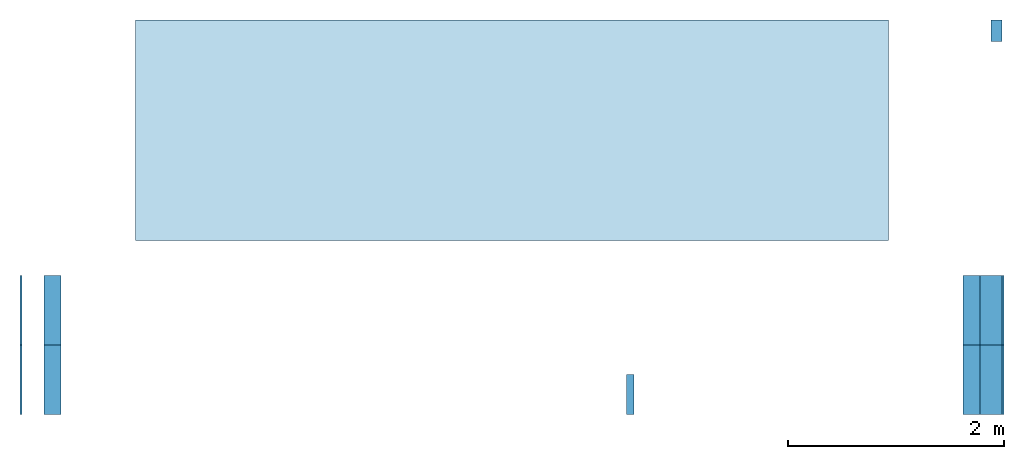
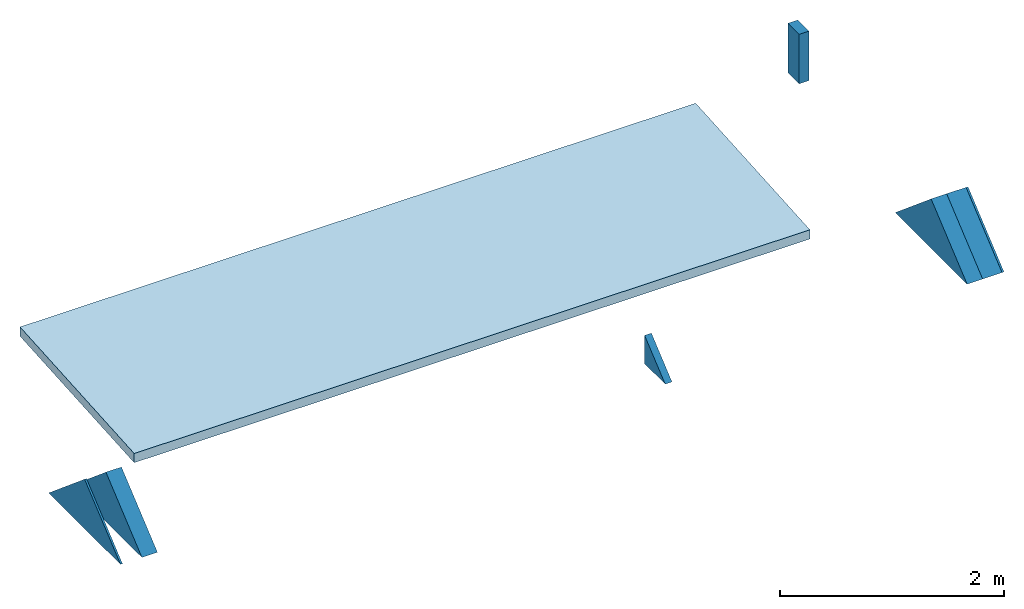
# One storey: 6 walls, 1 slab, 1 element without a shape of its own.
"""IFC2X3 building model written with IfcOpenShell, lengths in centimetres."""

from ifc_helpers import new_model, entity, si_unit, converted_unit, derived_unit, direction, frame, frame_2d, origin, place, context, subcontext, project, spatial, polyline, rectangle, outline, extrude, clip, halfspace, bounded_halfspace, material, layer, layer_set, layer_usage, type_object, element, aggregate, save


model = new_model("IFC2X3")

# Units and contexts
model_context = context("Model", 3, precision=0.001, world=origin(), true_north=direction((6.12303176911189e-17, 1.0)))
body_context = subcontext(model_context, "Body", "Model", "MODEL_VIEW")
ifc_project = project(units=[si_unit("LENGTHUNIT", "METRE", prefix="CENTI"), si_unit("AREAUNIT", "SQUARE_METRE"), si_unit("VOLUMEUNIT", "CUBIC_METRE"), converted_unit("PLANEANGLEUNIT", "DEGREE", entity("IfcRatioMeasure", 0.0174532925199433), si_unit("PLANEANGLEUNIT", "RADIAN"), dimensions=[0, 0, 0, 0, 0, 0, 0]), si_unit("MASSUNIT", "GRAM", prefix="KILO"), derived_unit("MASSDENSITYUNIT", [(si_unit("MASSUNIT", "GRAM", prefix="KILO"), 1), (si_unit("LENGTHUNIT", "METRE"), -3)]), derived_unit("MOMENTOFINERTIAUNIT", [(si_unit("LENGTHUNIT", "METRE"), 4)]), si_unit("TIMEUNIT", "SECOND"), si_unit("FREQUENCYUNIT", "HERTZ"), si_unit("THERMODYNAMICTEMPERATUREUNIT", "DEGREE_CELSIUS"), derived_unit("THERMALTRANSMITTANCEUNIT", [(si_unit("MASSUNIT", "GRAM", prefix="KILO"), 1), (si_unit("THERMODYNAMICTEMPERATUREUNIT", "KELVIN"), -1), (si_unit("TIMEUNIT", "SECOND"), -3)]), derived_unit("VOLUMETRICFLOWRATEUNIT", [(si_unit("LENGTHUNIT", "METRE"), 3), (si_unit("TIMEUNIT", "SECOND"), -1)]), si_unit("ELECTRICCURRENTUNIT", "AMPERE"), si_unit("ELECTRICVOLTAGEUNIT", "VOLT"), si_unit("POWERUNIT", "WATT"), si_unit("FORCEUNIT", "NEWTON", prefix="KILO"), si_unit("ILLUMINANCEUNIT", "LUX"), si_unit("LUMINOUSFLUXUNIT", "LUMEN"), si_unit("LUMINOUSINTENSITYUNIT", "CANDELA"), derived_unit("USERDEFINED", [(si_unit("MASSUNIT", "GRAM", prefix="KILO"), -1), (si_unit("LENGTHUNIT", "METRE"), -2), (si_unit("TIMEUNIT", "SECOND"), 3), (si_unit("LUMINOUSFLUXUNIT", "LUMEN"), 1)]), derived_unit("LINEARVELOCITYUNIT", [(si_unit("LENGTHUNIT", "METRE"), 1), (si_unit("TIMEUNIT", "SECOND"), -1)]), si_unit("PRESSUREUNIT", "PASCAL"), derived_unit("USERDEFINED", [(si_unit("LENGTHUNIT", "METRE"), -2), (si_unit("MASSUNIT", "GRAM", prefix="KILO"), 1), (si_unit("TIMEUNIT", "SECOND"), -2)]), derived_unit("LINEARFORCEUNIT", [(si_unit("MASSUNIT", "GRAM", prefix="KILO"), 1), (si_unit("LENGTHUNIT", "METRE"), 1), (si_unit("TIMEUNIT", "SECOND"), -2), (si_unit("LENGTHUNIT", "METRE"), -1)]), derived_unit("PLANARFORCEUNIT", [(si_unit("MASSUNIT", "GRAM", prefix="KILO"), 1), (si_unit("LENGTHUNIT", "METRE"), 1), (si_unit("TIMEUNIT", "SECOND"), -2), (si_unit("LENGTHUNIT", "METRE"), -2)])], contexts=[model_context])

# Site, building, storey
site_placement = place(None, origin())
site = spatial("IfcSite", under=ifc_project, at=site_placement, Name="Surface", CompositionType="ELEMENT")
building_placement = place(site_placement, origin())
building = spatial("IfcBuilding", under=site, at=building_placement, CompositionType="ELEMENT")
storey_placement = place(building_placement, frame((0.0, 0.0, 567.0)))
storey = spatial("IfcBuildingStorey", under=building, at=storey_placement, Name="5.67_Arase lucarne", CompositionType="ELEMENT", Elevation=567.0)

# Roof, slab
roof_placement = place(storey_placement, frame((-1683.17726031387, 518.245125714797, -24.2741602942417)))
roof = element("IfcRoof", 1, at=roof_placement, inside=storey, Name="Toit de base:Toiture", ObjectType="Toit de base:Toiture", ShapeType="NOTDEFINED")
ifc_material_1 = material(Name="Ardoise")
ifc_layer_1 = layer(ifc_material_1, 10.0)
ifc_layer_set_1 = layer_set([ifc_layer_1], Name="Toit de base:Toiture")
slab_type = type_object("IfcSlabType", Name="Toit de base:Toiture", PredefinedType="ROOF")
slab_placement = place(roof_placement, origin())
slab = element("IfcSlab", 2, at=slab_placement, type_object=slab_type, material=ifc_layer_set_1, Name="Toit de base:Toiture", ObjectType="Toit de base:Toiture", PredefinedType="ROOF", context=body_context, shape_type="SweptSolid", body=[
    extrude(rectangle(XDim=696.000000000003, YDim=204.278406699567, at=frame_2d((-1.13686837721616e-13, 0.0), x_axis=(1.0, 0.0))), frame((348.0, 101.890397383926, 7.12487065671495), z_axis=(0.0, -0.0697564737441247, 0.997564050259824), x_axis=(1.0, 0.0, 0.0)), (0.0, 0.0697564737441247, 0.997564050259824), 10.0244189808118),
])
aggregate(roof, [slab])

# Walls
ifc_material_2 = material(Name="Maçonnerie - Béton")
ifc_layer_2 = layer(ifc_material_2, 20.0)
ifc_layer_set_2 = layer_set([ifc_layer_2], Name="Mur de base:Mur 20")
ifc_layer_usage_1 = layer_usage(ifc_layer_set_2, "AXIS2", "NEGATIVE", 10.0)
wall_type_1 = type_object("IfcWallType", Name="Mur de base:Mur 20", PredefinedType="STANDARD", material=ifc_layer_set_2)
wall_1_placement = place(storey_placement, frame((-892.177260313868, 721.992317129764, 0.0), z_axis=(0.0, 0.0, 1.0), x_axis=(0.0, -1.0, 0.0)))
element("IfcWallStandardCase", 3, at=wall_1_placement, inside=storey, type_object=wall_type_1, material=ifc_layer_usage_1, Name="Mur de base:Mur 20", ObjectType="Mur de base:Mur 20", context=body_context, shape_type="Clipping", body=[
    clip(clip(clip(extrude(outline(polyline([(581.0, -10.0), (581.0, 10.0), (0.0, 10.0), (0.0, 0.0), (20.0, 0.0), (20.0, -10.0), (581.0, -10.0)])), origin(), (0.0, 0.0, 1.0), 53.8814317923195), bounded_halfspace(frame((20.0, -10.0, -181.486014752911), z_axis=(-0.642787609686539, 0.0, 0.766044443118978), x_axis=(0.0, -1.0, 0.0)), False, frame((20.0, -10.0, -181.486014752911)), polyline([(0.0, 0.0), (280.500000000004, 0.0), (280.500000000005, 20.0), (0.0, 20.0), (0.0, 0.0)]))), bounded_halfspace(frame((300.499999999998, -10.0, 53.8814317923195), z_axis=(0.642787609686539, 0.0, 0.766044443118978), x_axis=(0.0, 1.0, 0.0)), False, frame((300.499999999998, -10.0, 53.8814317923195)), polyline([(0.0, 0.0), (280.499999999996, 0.0), (280.499999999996, 20.0), (0.0, 20.0), (0.0, 0.0)]))), halfspace(frame((0.0, 0.0, -310.0)), True)),
])
ifc_material_3 = material(Name="Maçonnerie - Enduit")
ifc_layer_3 = layer(ifc_material_3, 2.0)
ifc_layer_set_3 = layer_set([ifc_layer_3], Name="Mur de base:Enduit 2")
ifc_layer_usage_2 = layer_usage(ifc_layer_set_3, "AXIS2", "NEGATIVE", 1.0)
wall_type_2 = type_object("IfcWallType", Name="Mur de base:Enduit 2", PredefinedType="STANDARD", material=ifc_layer_set_3)
wall_2_placement = place(storey_placement, frame((-881.177260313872, 711.992317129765, 0.0), z_axis=(0.0, 0.0, 1.0), x_axis=(0.0, -1.0, 0.0)))
element("IfcWallStandardCase", 4, at=wall_2_placement, inside=storey, type_object=wall_type_2, material=ifc_layer_usage_2, Name="Mur de base:Enduit 2", ObjectType="Mur de base:Enduit 2", context=body_context, shape_type="Clipping", body=[
    clip(clip(clip(extrude(rectangle(XDim=592.999999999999, YDim=1.99999999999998, at=frame_2d((296.5, -7.71605002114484e-15), x_axis=(-1.0, 0.0))), origin(), (0.0, 0.0, 1.0), 53.8814317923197), bounded_halfspace(frame((0.0, -1.0, -189.877011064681), z_axis=(-0.642787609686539, 0.0, 0.766044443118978), x_axis=(0.0, -1.0, 0.0)), False, frame((0.0, -1.0, -189.877011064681)), polyline([(0.0, 0.0), (290.5, 0.0), (290.5, 2.0), (0.0, 2.0), (0.0, 0.0)]))), bounded_halfspace(frame((290.5, -1.0, 53.8814317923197), z_axis=(0.642787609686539, 0.0, 0.766044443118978), x_axis=(0.0, 1.0, 0.0)), False, frame((290.5, -1.0, 53.8814317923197)), polyline([(0.0, 0.0), (300.499999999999, 0.0), (302.499999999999, 0.0), (302.499999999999, 2.0), (0.0, 2.0), (0.0, 0.0)]))), halfspace(frame((0.0, 0.0, -310.0)), True)),
])
ifc_layer_usage_3 = layer_usage(ifc_layer_set_3, "AXIS2", "POSITIVE", -1.0)
wall_3_placement = place(storey_placement, frame((-1789.17726031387, 721.992317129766, 0.0), z_axis=(0.0, 0.0, 1.0), x_axis=(0.0, -1.0, 0.0)))
element("IfcWallStandardCase", 5, at=wall_3_placement, inside=storey, type_object=wall_type_2, material=ifc_layer_usage_3, Name="Mur de base:Enduit 2", ObjectType="Mur de base:Enduit 2", context=body_context, shape_type="Clipping", body=[
    clip(clip(clip(extrude(rectangle(XDim=601.0, YDim=1.99999999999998, at=frame_2d((300.5, -3.38618022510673e-15), x_axis=(-1.0, 0.0))), origin(), (0.0, 0.0, 1.0), 53.8814317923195), bounded_halfspace(frame((0.0, -1.0, -198.268007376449), z_axis=(-0.642787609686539, 0.0, 0.766044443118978), x_axis=(0.0, -1.0, 0.0)), False, frame((0.0, -1.0, -198.268007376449)), polyline([(0.0, 0.0), (300.499999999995, 0.0), (300.499999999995, 2.0), (0.0, 2.0), (0.0, 0.0)]))), bounded_halfspace(frame((300.499999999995, -1.0, 53.8814317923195), z_axis=(0.642787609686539, 0.0, 0.766044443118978), x_axis=(0.0, 1.0, 0.0)), False, frame((300.499999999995, -1.0, 53.8814317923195)), polyline([(0.0, 0.0), (300.500000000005, 0.0), (300.500000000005, 2.0), (0.0, 2.0), (0.0, 0.0)]))), halfspace(frame((0.0, 0.0, -285.0)), True)),
])
ifc_material_4 = material(Name="Isolant rigide")
ifc_layer_4 = layer(ifc_material_4, 16.0)
ifc_layer_set_4 = layer_set([ifc_layer_4], Name="Mur de base:Doublage 16")
ifc_layer_usage_4 = layer_usage(ifc_layer_set_4, "AXIS2", "POSITIVE", -8.0)
wall_type_3 = type_object("IfcWallType", Name="Mur de base:Doublage 16", PredefinedType="STANDARD", material=ifc_layer_set_4)
wall_4_placement = place(storey_placement, frame((-910.177260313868, 701.99231712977, 0.0), z_axis=(0.0, 0.0, 1.0), x_axis=(0.0, -1.0, 0.0)))
element("IfcWallStandardCase", 6, at=wall_4_placement, inside=storey, type_object=wall_type_3, material=ifc_layer_usage_4, Name="Mur de base:Doublage 16", ObjectType="Mur de base:Doublage 16", context=body_context, shape_type="Clipping", body=[
    clip(clip(clip(extrude(rectangle(XDim=561.0, YDim=16.0, at=frame_2d((280.5, 0.0), x_axis=(-1.0, 0.0))), origin(), (0.0, 0.0, 1.0), 53.8814317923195), bounded_halfspace(frame((0.0, -8.0, -181.486014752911), z_axis=(-0.642787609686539, 0.0, 0.766044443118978), x_axis=(0.0, -1.0, 0.0)), False, frame((0.0, -8.0, -181.486014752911)), polyline([(0.0, 0.0), (16.0, 0.0), (280.500000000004, 0.0), (280.500000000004, 16.0), (0.0, 16.0), (0.0, 0.0)]))), bounded_halfspace(frame((280.500000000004, -8.0, 53.8814317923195), z_axis=(0.642787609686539, 0.0, 0.766044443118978), x_axis=(0.0, 1.0, 0.0)), False, frame((280.500000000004, -8.0, 53.8814317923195)), polyline([(0.0, 0.0), (280.499999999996, 0.0), (280.499999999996, 16.0), (0.0, 16.0), (0.0, 0.0)]))), halfspace(frame((0.0, 0.0, -304.0)), True)),
])
ifc_layer_usage_5 = layer_usage(ifc_layer_set_4, "AXIS2", "POSITIVE", -8.0)
wall_5_placement = place(storey_placement, frame((-1760.17726031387, 140.992317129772, 0.0), z_axis=(0.0, 0.0, 1.0), x_axis=(0.0, 1.0, 0.0)))
element("IfcWallStandardCase", 7, at=wall_5_placement, inside=storey, type_object=wall_type_3, material=ifc_layer_usage_5, Name="Mur de base:Doublage 16", ObjectType="Mur de base:Doublage 16", context=body_context, shape_type="Clipping", body=[
    clip(clip(clip(extrude(rectangle(XDim=561.0, YDim=15.9999999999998, at=frame_2d((280.5, 0.0), x_axis=(-1.0, 0.0))), origin(), (0.0, 0.0, 1.0), 53.8814317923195), bounded_halfspace(frame((280.499999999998, -8.0, 53.8814317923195), z_axis=(0.642787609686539, 0.0, 0.766044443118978), x_axis=(0.0, 1.0, 0.0)), False, frame((280.499999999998, -8.0, 53.8814317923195)), polyline([(0.0, 0.0), (264.500000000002, 0.0), (280.500000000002, 0.0), (280.500000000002, 16.0), (0.0, 16.0), (0.0, 0.0)]))), bounded_halfspace(frame((0.0, -8.0, -181.486014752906), z_axis=(-0.642787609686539, 0.0, 0.766044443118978), x_axis=(0.0, -1.0, 0.0)), False, frame((0.0, -8.0, -181.486014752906)), polyline([(0.0, 0.0), (280.499999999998, 0.0), (280.499999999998, 16.0), (0.0, 16.0), (0.0, 0.0)]))), halfspace(frame((0.0, 0.0, -304.0)), True)),
])
ifc_material_5 = material(Name="Mur par défaut")
ifc_layer_5 = layer(ifc_material_5, 7.0)
ifc_layer_set_5 = layer_set([ifc_layer_5], Name="Mur de base:Cloison 7cm")
ifc_layer_usage_6 = layer_usage(ifc_layer_set_5, "AXIS2", "POSITIVE", -3.5)
wall_type_4 = type_object("IfcWallType", Name="Mur de base:Cloison 7cm", PredefinedType="STANDARD", material=ifc_layer_set_5)
wall_6_placement = place(storey_placement, frame((-1225.67726031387, 393.992317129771, 0.0), z_axis=(0.0, 0.0, 1.0), x_axis=(0.0, -1.0, 0.0)))
element("IfcWallStandardCase", 8, at=wall_6_placement, inside=storey, type_object=wall_type_4, material=ifc_layer_usage_6, Name="Mur de base:Cloison 7cm", ObjectType="Mur de base:Cloison 7cm", context=body_context, shape_type="Clipping", body=[
    clip(clip(extrude(rectangle(XDim=237.0, YDim=7.00000000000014, at=frame_2d((118.5, 0.0), x_axis=(-1.0, 0.0))), origin(), (0.0, 0.0, 1.0), 30.806191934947), bounded_halfspace(frame((0.0, -3.49999999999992, 30.8061919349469), z_axis=(0.642787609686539, 0.0, 0.766044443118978), x_axis=(0.0, 1.0, 0.0)), False, frame((0.0, -3.49999999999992, 30.8061919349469)), polyline([(0.0, 0.0), (131.0, 0.0), (138.0, 0.0), (237.0, 0.0), (237.0, 7.0), (0.0, 7.0), (0.0, 0.0)]))), halfspace(frame((0.0, 0.0, -304.0)), True)),
])

save(model, "model.ifc")
